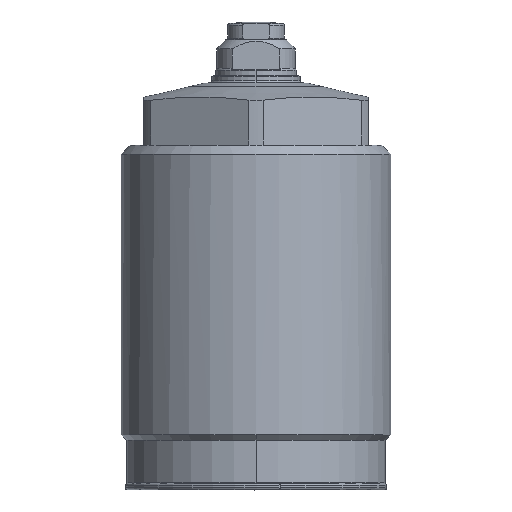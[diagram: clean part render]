
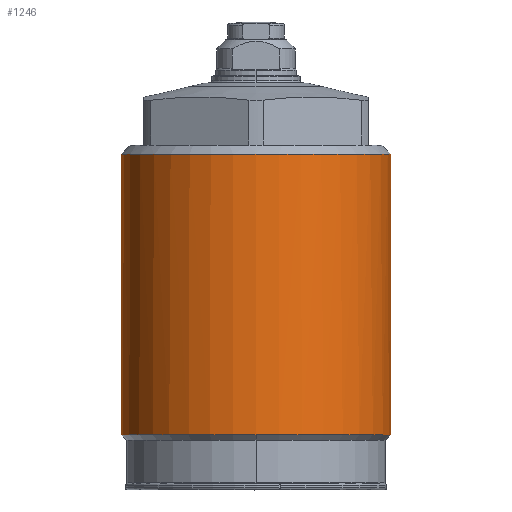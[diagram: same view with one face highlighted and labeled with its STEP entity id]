
A CAD part, top view. The second image highlights one B-rep face of the part: STEP entity #1246.
In plain terms, the highlighted cylindrical face has radius 30 mm (diameter 60 mm), a full revolution.
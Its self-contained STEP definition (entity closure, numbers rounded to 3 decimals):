
#858=FACE_BOUND('',#1580,.T.);
#859=FACE_BOUND('',#1581,.T.);
#950=CYLINDRICAL_SURFACE('',#3248,30.);
#1032=LINE('',#4869,#1115);
#1033=LINE('',#4871,#1116);
#1115=VECTOR('',#4001,1.);
#1116=VECTOR('',#4002,1.);
#1246=ADVANCED_FACE('',(#858,#859),#950,.T.);
#1580=EDGE_LOOP('',(#2136));
#1581=EDGE_LOOP('',(#2137,#2138,#2139,#2140,#2141,#2142));
#2136=ORIENTED_EDGE('',*,*,#2701,.T.);
#2137=ORIENTED_EDGE('',*,*,#2700,.T.);
#2138=ORIENTED_EDGE('',*,*,#2702,.T.);
#2139=ORIENTED_EDGE('',*,*,#2702,.F.);
#2140=ORIENTED_EDGE('',*,*,#2699,.T.);
#2141=ORIENTED_EDGE('',*,*,#2703,.T.);
#2142=ORIENTED_EDGE('',*,*,#2703,.F.);
#2397=VERTEX_POINT('',#4860);
#2398=VERTEX_POINT('',#4862);
#2399=VERTEX_POINT('',#4868);
#2400=VERTEX_POINT('',#4870);
#2401=VERTEX_POINT('',#4872);
#2699=EDGE_CURVE('',#2397,#2398,#2910,.T.);
#2700=EDGE_CURVE('',#2398,#2397,#2911,.T.);
#2701=EDGE_CURVE('',#2399,#2399,#2912,.T.);
#2702=EDGE_CURVE('',#2397,#2400,#1032,.T.);
#2703=EDGE_CURVE('',#2398,#2401,#1033,.T.);
#2910=CIRCLE('',#3243,30.);
#2911=CIRCLE('',#3245,30.);
#2912=CIRCLE('',#3247,30.);
#3243=AXIS2_PLACEMENT_3D('',#4863,#3991,#3992);
#3245=AXIS2_PLACEMENT_3D('',#4865,#3995,#3996);
#3247=AXIS2_PLACEMENT_3D('',#4867,#3999,#4000);
#3248=AXIS2_PLACEMENT_3D('',#4873,#4003,#4004);
#3991=DIRECTION('',(0.,1.,0.));
#3992=DIRECTION('',(0.,0.,1.));
#3995=DIRECTION('',(0.,1.,0.));
#3996=DIRECTION('',(0.,0.,1.));
#3999=DIRECTION('',(0.,-1.,0.));
#4000=DIRECTION('',(0.,0.,1.));
#4001=DIRECTION('',(0.,1.,0.));
#4002=DIRECTION('',(0.,1.,0.));
#4003=DIRECTION('',(0.,1.,0.));
#4004=DIRECTION('',(0.,0.,-1.));
#4860=CARTESIAN_POINT('',(0.,10.9,-30.));
#4862=CARTESIAN_POINT('',(0.,10.9,30.));
#4863=CARTESIAN_POINT('',(0.,10.9,0.));
#4865=CARTESIAN_POINT('',(0.,10.9,0.));
#4867=CARTESIAN_POINT('',(0.,73.281,0.));
#4868=CARTESIAN_POINT('',(0.,73.281,30.));
#4869=CARTESIAN_POINT('',(0.,90.8,-30.));
#4870=CARTESIAN_POINT('',(0.,38.2,-30.));
#4871=CARTESIAN_POINT('',(0.,90.8,30.));
#4872=CARTESIAN_POINT('',(0.,38.2,30.));
#4873=CARTESIAN_POINT('',(0.,90.8,0.));
